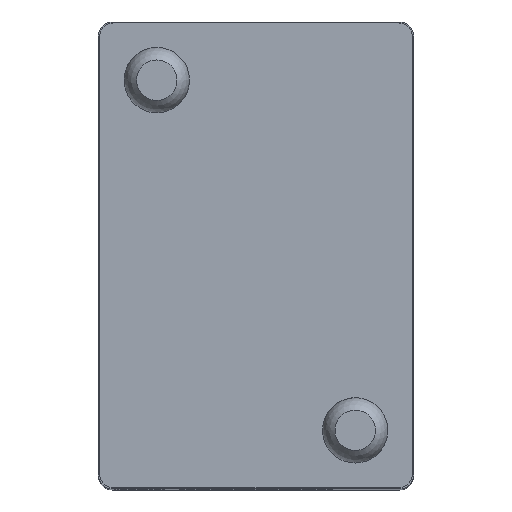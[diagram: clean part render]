
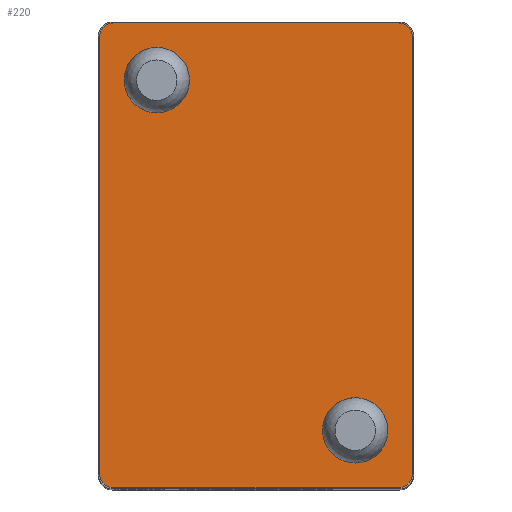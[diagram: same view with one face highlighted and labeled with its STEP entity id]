
A CAD part, top view. The second image highlights one B-rep face of the part: STEP entity #220.
In plain terms, the highlighted planar face has unit normal (0, 0, 1).
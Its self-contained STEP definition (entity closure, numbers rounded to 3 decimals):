
#220 = ADVANCED_FACE( '', ( #474, #475, #476 ), #477, .T. );
#474 = FACE_BOUND( '', #721, .T. );
#475 = FACE_BOUND( '', #722, .T. );
#476 = FACE_OUTER_BOUND( '', #723, .T. );
#477 = PLANE( '', #724 );
#721 = EDGE_LOOP( '', ( #1249 ) );
#722 = EDGE_LOOP( '', ( #1250 ) );
#723 = EDGE_LOOP( '', ( #1251, #1252, #1253, #1254, #1255, #1256, #1257, #1258 ) );
#724 = AXIS2_PLACEMENT_3D( '', #1259, #1260, #1261 );
#1249 = ORIENTED_EDGE( '', *, *, #1453, .T. );
#1250 = ORIENTED_EDGE( '', *, *, #1440, .T. );
#1251 = ORIENTED_EDGE( '', *, *, #1460, .T. );
#1252 = ORIENTED_EDGE( '', *, *, #1455, .T. );
#1253 = ORIENTED_EDGE( '', *, *, #1329, .T. );
#1254 = ORIENTED_EDGE( '', *, *, #1317, .T. );
#1255 = ORIENTED_EDGE( '', *, *, #1280, .T. );
#1256 = ORIENTED_EDGE( '', *, *, #1303, .T. );
#1257 = ORIENTED_EDGE( '', *, *, #1429, .T. );
#1258 = ORIENTED_EDGE( '', *, *, #1383, .T. );
#1259 = CARTESIAN_POINT( '', ( -12.2, 18.7, 61.6 ) );
#1260 = DIRECTION( '', ( 0., 0., 1. ) );
#1261 = DIRECTION( '', ( 1., 0., 0. ) );
#1280 = EDGE_CURVE( '', #1496, #1494, #1497, .T. );
#1303 = EDGE_CURVE( '', #1494, #1535, #1537, .T. );
#1317 = EDGE_CURVE( '', #1559, #1496, #1560, .T. );
#1329 = EDGE_CURVE( '', #1579, #1559, #1580, .T. );
#1383 = EDGE_CURVE( '', #1668, #1666, #1669, .T. );
#1429 = EDGE_CURVE( '', #1535, #1668, #1727, .T. );
#1440 = EDGE_CURVE( '', #1740, #1740, #1741, .F. );
#1453 = EDGE_CURVE( '', #1755, #1755, #1756, .F. );
#1455 = EDGE_CURVE( '', #1758, #1579, #1759, .T. );
#1460 = EDGE_CURVE( '', #1666, #1758, #1764, .T. );
#1494 = VERTEX_POINT( '', #1806 );
#1496 = VERTEX_POINT( '', #1809 );
#1497 = CIRCLE( '', #1810, 1.2 );
#1535 = VERTEX_POINT( '', #1857 );
#1537 = LINE( '', #1860, #1861 );
#1559 = VERTEX_POINT( '', #1951 );
#1560 = LINE( '', #1952, #1953 );
#1579 = VERTEX_POINT( '', #1977 );
#1580 = CIRCLE( '', #1978, 1.2 );
#1666 = VERTEX_POINT( '', #2154 );
#1668 = VERTEX_POINT( '', #2157 );
#1669 = LINE( '', #2158, #2159 );
#1727 = CIRCLE( '', #2228, 1.2 );
#1740 = VERTEX_POINT( '', #2242 );
#1741 = CIRCLE( '', #2243, 2.8 );
#1755 = VERTEX_POINT( '', #2257 );
#1756 = CIRCLE( '', #2258, 2.8 );
#1758 = VERTEX_POINT( '', #2260 );
#1759 = LINE( '', #2261, #2262 );
#1764 = CIRCLE( '', #2268, 1.2 );
#1806 = CARTESIAN_POINT( '', ( 13.4, -18.7, 61.6 ) );
#1809 = CARTESIAN_POINT( '', ( 12.2, -19.9, 61.6 ) );
#1810 = AXIS2_PLACEMENT_3D( '', #2293, #2294, #2295 );
#1857 = CARTESIAN_POINT( '', ( 13.4, 18.7, 61.6 ) );
#1860 = CARTESIAN_POINT( '', ( 13.4, -18.7, 61.6 ) );
#1861 = VECTOR( '', #2333, 1000. );
#1951 = CARTESIAN_POINT( '', ( -12.2, -19.9, 61.6 ) );
#1952 = CARTESIAN_POINT( '', ( -12.2, -19.9, 61.6 ) );
#1953 = VECTOR( '', #2352, 1000. );
#1977 = CARTESIAN_POINT( '', ( -13.4, -18.7, 61.6 ) );
#1978 = AXIS2_PLACEMENT_3D( '', #2367, #2368, #2369 );
#2154 = CARTESIAN_POINT( '', ( -12.2, 19.9, 61.6 ) );
#2157 = CARTESIAN_POINT( '', ( 12.2, 19.9, 61.6 ) );
#2158 = CARTESIAN_POINT( '', ( 12.2, 19.9, 61.6 ) );
#2159 = VECTOR( '', #2444, 1000. );
#2228 = AXIS2_PLACEMENT_3D( '', #2504, #2505, #2506 );
#2242 = CARTESIAN_POINT( '', ( -5.7, 15., 61.6 ) );
#2243 = AXIS2_PLACEMENT_3D( '', #2520, #2521, #2522 );
#2257 = CARTESIAN_POINT( '', ( 11.3, -15., 61.6 ) );
#2258 = AXIS2_PLACEMENT_3D( '', #2526, #2527, #2528 );
#2260 = CARTESIAN_POINT( '', ( -13.4, 18.7, 61.6 ) );
#2261 = CARTESIAN_POINT( '', ( -13.4, 18.7, 61.6 ) );
#2262 = VECTOR( '', #2529, 1000. );
#2268 = AXIS2_PLACEMENT_3D( '', #2531, #2532, #2533 );
#2293 = CARTESIAN_POINT( '', ( 12.2, -18.7, 61.6 ) );
#2294 = DIRECTION( '', ( 0., 0., 1. ) );
#2295 = DIRECTION( '', ( 1., 0., 0. ) );
#2333 = DIRECTION( '', ( 0., 1., 0. ) );
#2352 = DIRECTION( '', ( 1., 0., 0. ) );
#2367 = CARTESIAN_POINT( '', ( -12.2, -18.7, 61.6 ) );
#2368 = DIRECTION( '', ( 0., 0., 1. ) );
#2369 = DIRECTION( '', ( 1., 0., 0. ) );
#2444 = DIRECTION( '', ( -1., 0., 0. ) );
#2504 = CARTESIAN_POINT( '', ( 12.2, 18.7, 61.6 ) );
#2505 = DIRECTION( '', ( 0., 0., 1. ) );
#2506 = DIRECTION( '', ( 1., 0., 0. ) );
#2520 = CARTESIAN_POINT( '', ( -8.5, 15., 61.6 ) );
#2521 = DIRECTION( '', ( 0., 0., 1. ) );
#2522 = DIRECTION( '', ( 1., 0., 0. ) );
#2526 = CARTESIAN_POINT( '', ( 8.5, -15., 61.6 ) );
#2527 = DIRECTION( '', ( 0., 0., 1. ) );
#2528 = DIRECTION( '', ( 1., 0., 0. ) );
#2529 = DIRECTION( '', ( 0., -1., 0. ) );
#2531 = CARTESIAN_POINT( '', ( -12.2, 18.7, 61.6 ) );
#2532 = DIRECTION( '', ( 0., 0., 1. ) );
#2533 = DIRECTION( '', ( 1., 0., 0. ) );
